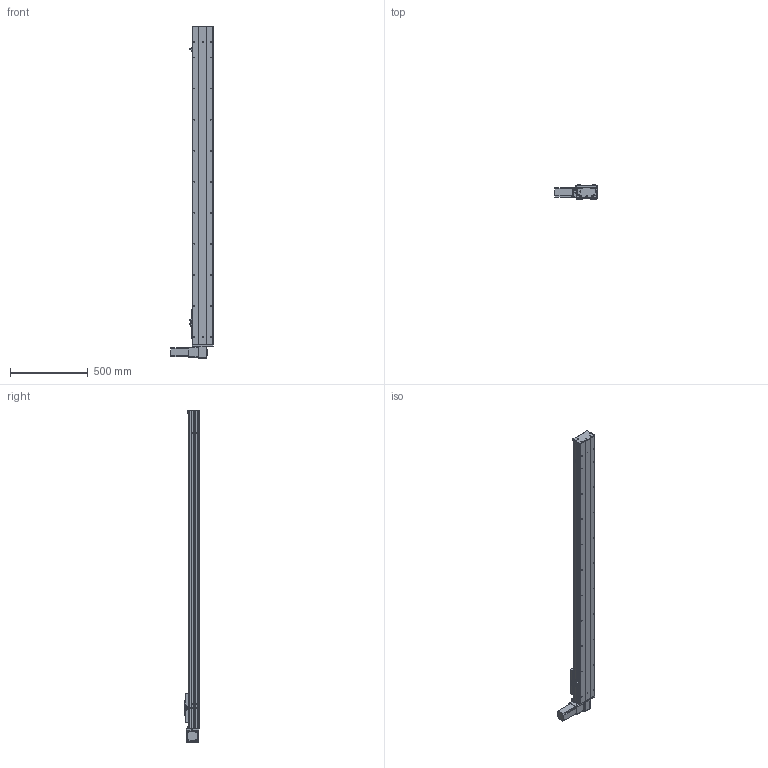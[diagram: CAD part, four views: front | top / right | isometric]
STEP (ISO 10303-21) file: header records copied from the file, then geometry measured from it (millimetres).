
FILE_DESCRIPTION (( 'STEP AP203' ), '1' );
FILE_NAME ('Y135CB-D90-S1750-BD-P400W.STEP', '2020-02-19T03:49:41', ( '微软用户' ), ( '微软中国' ), 'SwSTEP 2.0', 'SolidWorks 2017', '' );
FILE_SCHEMA (( 'CONFIG_CONTROL_DESIGN' ));
Length unit declared in the file: millimetre
Products named in the file (16): C-雄赽釱--; 0B-源倛裔啣; Y10B--々湍喘謫眊--666; san松下电机400不带刹车----; 0B-薊粣ん眊; 5CB --掛极耜裔啣-; Y135CB-D90-S1750-BD-P400W; C-詩湍揤踡え-陔; 135CB--詩湍-CE; Y135CB-耜裔; Y100-135俋离換覜ん--; 135CB---遴掛极.-; Y135C-陔俋离換覜結え-; 35CB---喘謫眊楊擘啣; 5C--俋欶; 0B-埴倛裔啣
Assembly tree (19 placements, depth 2):
  Y135CB-D90-S1750-BD-P400W
    Y135CB-耜裔
    135CB---遴掛极.-
    35CB---喘謫眊楊擘啣
    0B-埴倛裔啣
    0B-源倛裔啣
    san松下电机400不带刹车----
    5CB --掛极耜裔啣-  x2
    C-詩湍揤踡え-陔  x2
    135CB--詩湍-CE
    Y100-135俋离換覜ん--  x3
    Y135C-陔俋离換覜結え-
    5C--俋欶
    C-雄赽釱--
    Y10B--々湍喘謫眊--666
    0B-薊粣ん眊
Bounding box: 272 x 91 x 2138 mm (x, y, z)
Volume: 6334418.9 mm3; surface area: 2454415 mm2
Topology: 19 solids, 19 shells, 871 faces, 2338 edges, 1548 vertices
Faces by surface type: cylinder 440, plane 415, cone 16
Entity records: 26814 total; most frequent: DIRECTION 4470, CARTESIAN_POINT 4423, ORIENTED_EDGE 4152, EDGE_CURVE 2076, AXIS2_PLACEMENT_3D 1643, VERTEX_POINT 1376, VECTOR 1184, LINE 1184
